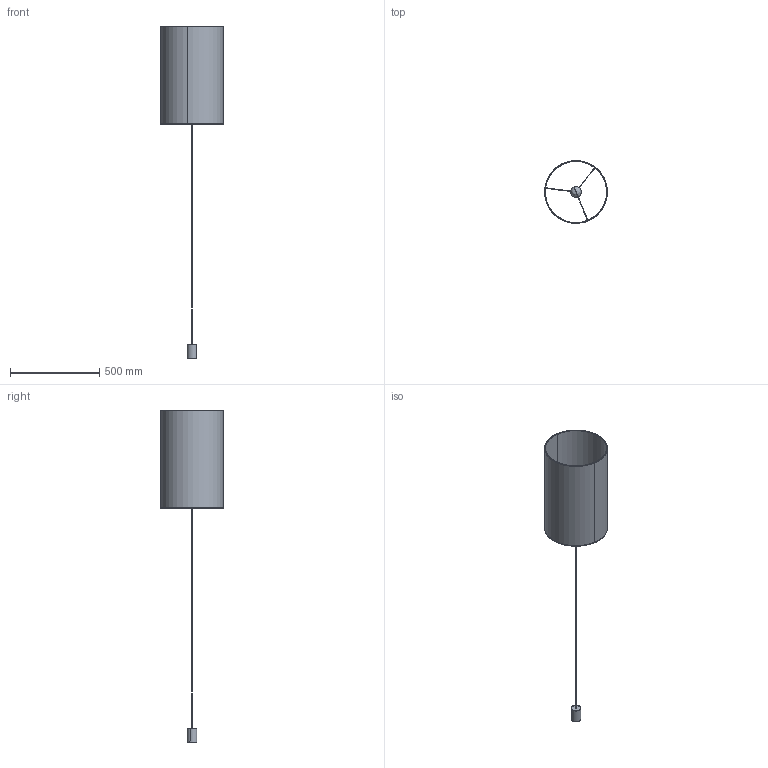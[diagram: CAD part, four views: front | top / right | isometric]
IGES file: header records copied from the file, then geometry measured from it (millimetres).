
Start section: SolidWorks IGES file using analytic representation for surfaces
Global section: file name: F:\GABRYSIA\MODELE 3D\BARREL_L_8446_8444_8445_WWW\BARREL_L_8446_8444_8445.IGS; native system: SolidWorks 2017; preprocessor: SolidWorks 2017; author: Togambi; date: 200709.110643; units: millimetre
Bounding box: 350.61 x 350.56 x 1859.82 mm (x, y, z)
Surface area: 1381847.3 mm2 (no closed solid volume)
Topology: 0 solids, 0 shells, 256 faces, 3794 edges, 3774 vertices
Faces by surface type: revolution 161, bspline 95
